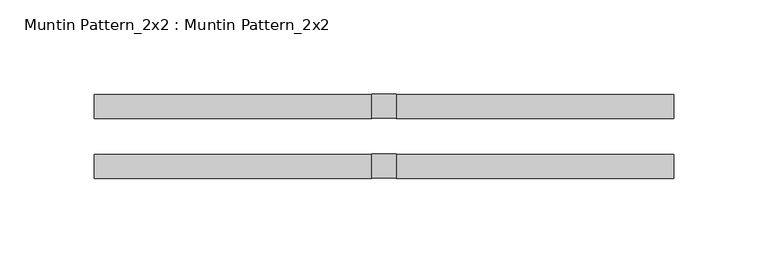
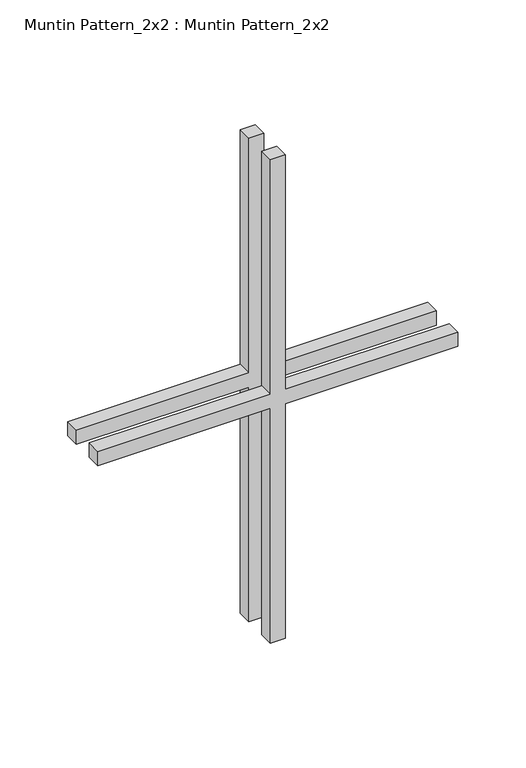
"""IFC4 building model written with IfcOpenShell, lengths in millimetres: proxy geometry, Muntin Pattern_2x2 : Muntin Pattern_2x2."""

from ifc_helpers import new_model, si_unit, frame, origin, place, context, project, spatial, polyline, outline, extrude, source, transform, mapped, element, save


def muntin_pattern_2x2_muntin_pattern_2x2_af42573e(model_context):
    return source(origin(), model_context, "Body", "SweptSolid", [
        extrude(outline(polyline([(223.8375, -6.35), (223.8375, -153.19375), (211.1375, -153.19375), (211.1375, -6.35), (0.0, -6.35), (0.0, 6.35), (211.1375, 6.35), (211.1375, 153.19375), (223.8375, 153.19375), (223.8375, 6.35), (434.975, 6.35), (434.975, -6.35), (223.8375, -6.35)])), frame((0.0, 9.525, 0.0), z_axis=(0.0, 1.0, 0.0), x_axis=(0.0, 0.0, 1.0)), (0.0, 0.0, 1.0), 12.7),
        extrude(outline(polyline([(223.8375, -6.35), (223.8375, -153.19375), (211.1375, -153.19375), (211.1375, -6.35), (0.0, -6.35), (0.0, 6.35), (211.1375, 6.35), (211.1375, 153.19375), (223.8375, 153.19375), (223.8375, 6.35), (434.975, 6.35), (434.975, -6.35), (223.8375, -6.35)])), frame((0.0, -22.225, 0.0), z_axis=(0.0, 1.0, 0.0), x_axis=(0.0, 0.0, 1.0)), (0.0, 0.0, 1.0), 12.7),
    ])


if __name__ == "__main__":
    model = new_model("IFC4")
    model_context = context("Model", 3, world=origin())
    ifc_project = project(units=[si_unit("LENGTHUNIT", "METRE", prefix="MILLI")], contexts=[model_context])
    site = spatial("IfcSite", under=ifc_project)
    building = spatial("IfcBuilding", under=site)
    placement = place(None, origin())
    muntin_pattern_2x2_muntin_pattern_2x2_shape = muntin_pattern_2x2_muntin_pattern_2x2_af42573e(model_context)
    element("IfcBuildingElementProxy", 1, Name="Muntin Pattern_2x2 : Muntin Pattern_2x2", ObjectType="Muntin Pattern_2x2 : Muntin Pattern_2x2", at=placement, inside=building, context=model_context, shape_type="MappedRepresentation", body=[
        mapped(muntin_pattern_2x2_muntin_pattern_2x2_shape, transform((0.0, 0.0, 0.0), x_axis=(1.0, 0.0, 0.0), y_axis=(0.0, 1.0, 0.0), z_axis=(0.0, 0.0, 1.0))),
    ])
    save(model, "model.ifc")
